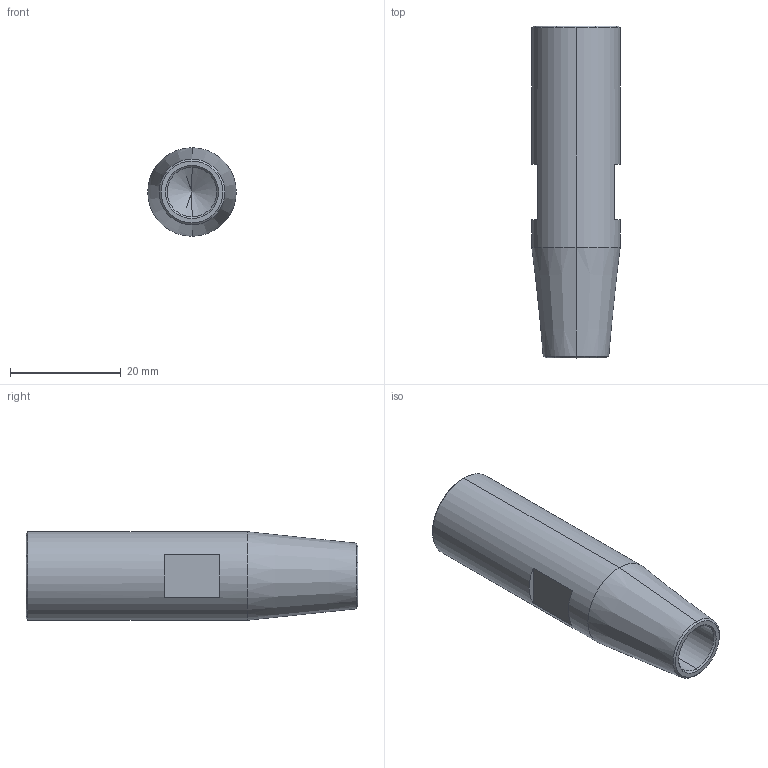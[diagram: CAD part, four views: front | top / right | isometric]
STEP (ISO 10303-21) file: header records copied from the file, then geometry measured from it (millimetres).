
FILE_DESCRIPTION (( 'STEP AP203' ), '1' );
FILE_NAME ('SW-PN-D4-3.STEP', '2022-03-28T06:35:36', ( '' ), ( '' ), 'SwSTEP 2.0', 'SolidWorks 2015', '' );
FILE_SCHEMA (( 'CONFIG_CONTROL_DESIGN' ));
Length unit declared in the file: millimetre
Products named in the file (2): SW-PN-D4-3
Bounding box: 16 x 60 x 16 mm (x, y, z)
Volume: 8511.8 mm3; surface area: 4382.2 mm2
Topology: 1 solids, 1 shells, 28 faces, 58 edges, 32 vertices
Faces by surface type: cone 14, plane 8, cylinder 6
Entity records: 863 total; most frequent: DIRECTION 140, CARTESIAN_POINT 116, ORIENTED_EDGE 108, AXIS2_PLACEMENT_3D 56, EDGE_CURVE 54, VERTEX_POINT 32, EDGE_LOOP 32, FACE_OUTER_BOUND 28
